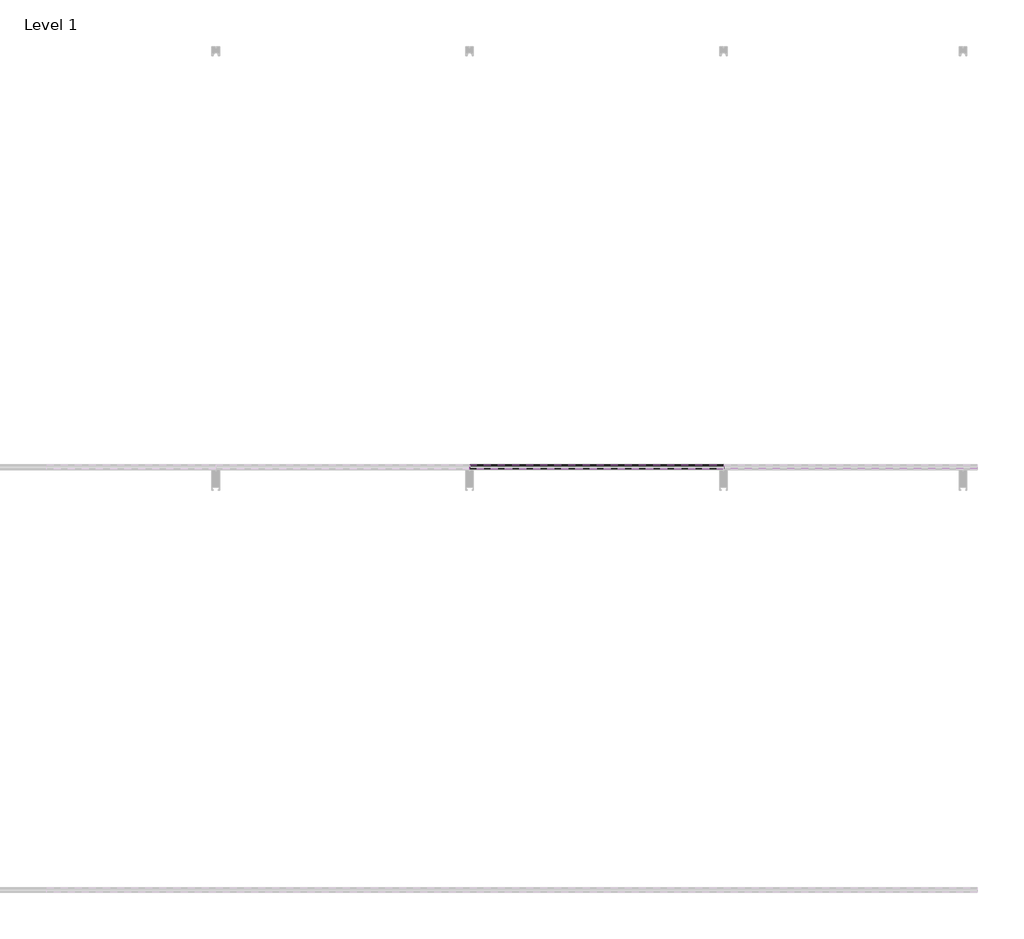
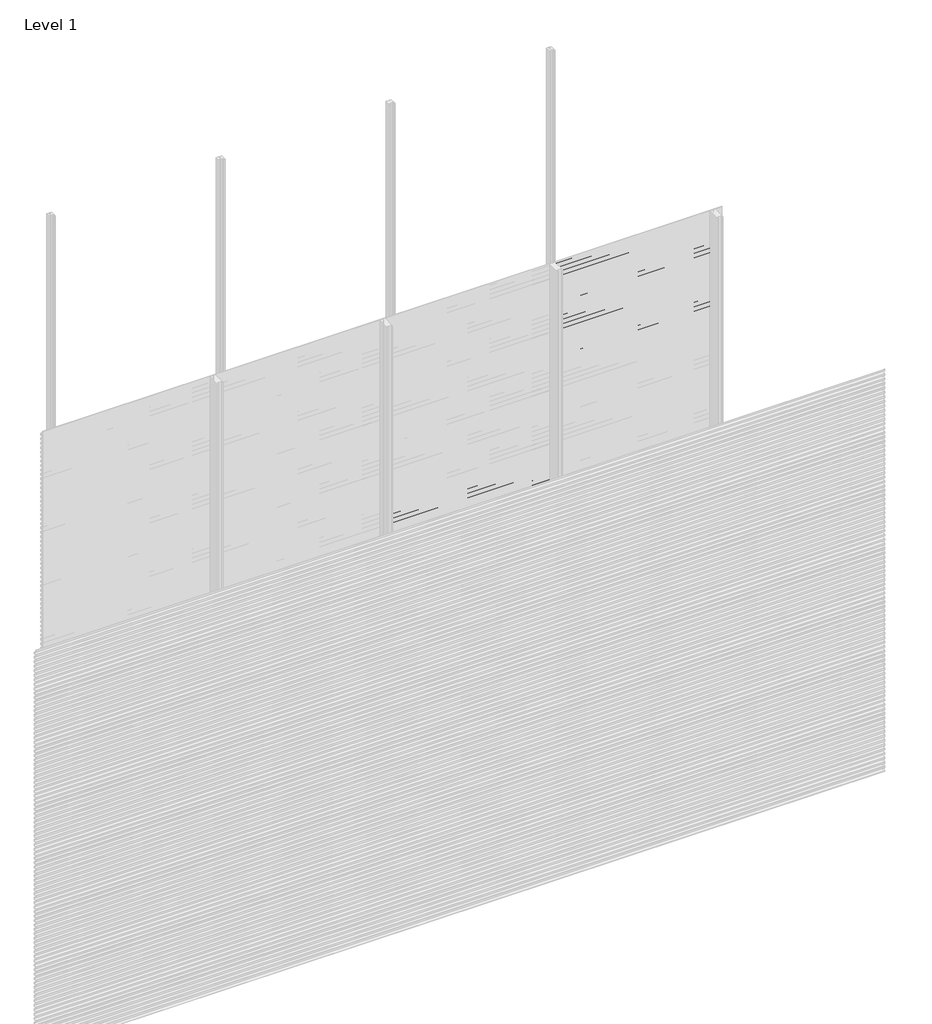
# One storey, part 54 of 77: 72 proxies.
"""IFC4 building model written with IfcOpenShell, lengths in millimetres."""

from ifc_helpers import new_model, si_unit, frame, origin, place, context, project, spatial, polyline, outline, extrude, element, save

model = new_model("IFC4")

# Units and contexts
model_context = context("Model", 3, world=origin())
ifc_project = project(units=[si_unit("LENGTHUNIT", "METRE", prefix="MILLI")], contexts=[model_context])

# Site, building, storey
site = spatial("IfcSite", under=ifc_project)
building = spatial("IfcBuilding", under=site)
storey = spatial("IfcBuildingStorey", under=building, Name="Level 1", Elevation=0.0)

# Proxies
placement = place(None, origin())
element("IfcBuildingElementProxy", 1, Name="Wall Sweeps", at=placement, inside=storey, context=model_context, shape_type="SweptSolid", body=[
    extrude(outline(polyline([(-17978.6, 1607.2359887), (-17998.0, 1618.4366691), (-17998.0, 1631.7), (-17997.0, 1631.7), (-17997.0, 1619.0191057), (-17977.6, 1607.8185105), (-17977.6, 1594.2185105), (-17978.6, 1595.7953129), (-17978.6, 1601.6032062), (-17995.9773817, 1593.5), (-17996.4, 1594.4063078), (-17978.6, 1602.7065841), (-17978.6, 1607.2359887)])), frame((3600.0, 0.0, 0.0), z_axis=(1.0, 0.0, 0.0), x_axis=(0.0, 1.0, 0.0)), (0.0, 0.0, 1.0), 1200.0),
])
element("IfcBuildingElementProxy", 2, Name="Wall Sweeps", at=placement, inside=storey, context=model_context, shape_type="SweptSolid", body=[
    extrude(outline(polyline([(-17978.6, 1573.9359887), (-17998.0, 1585.1366691), (-17998.0, 1598.4), (-17997.0, 1598.4), (-17997.0, 1585.7191057), (-17977.6, 1574.5185105), (-17977.6, 1560.9185105), (-17978.6, 1562.4953129), (-17978.6, 1568.3032062), (-17995.9773817, 1560.2), (-17996.4, 1561.1063078), (-17978.6, 1569.4065841), (-17978.6, 1573.9359887)])), frame((3600.0, 0.0, 0.0), z_axis=(1.0, 0.0, 0.0), x_axis=(0.0, 1.0, 0.0)), (0.0, 0.0, 1.0), 1200.0),
])
element("IfcBuildingElementProxy", 3, Name="Wall Sweeps", at=placement, inside=storey, context=model_context, shape_type="SweptSolid", body=[
    extrude(outline(polyline([(-17978.6, 1540.6359887), (-17998.0, 1551.8366691), (-17998.0, 1565.1), (-17997.0, 1565.1), (-17997.0, 1552.4191057), (-17977.6, 1541.2185105), (-17977.6, 1527.6185105), (-17978.6, 1529.1953129), (-17978.6, 1535.0032062), (-17995.9773817, 1526.9), (-17996.4, 1527.8063078), (-17978.6, 1536.1065841), (-17978.6, 1540.6359887)])), frame((3600.0, 0.0, 0.0), z_axis=(1.0, 0.0, 0.0), x_axis=(0.0, 1.0, 0.0)), (0.0, 0.0, 1.0), 1200.0),
])
element("IfcBuildingElementProxy", 4, Name="Wall Sweeps", at=placement, inside=storey, context=model_context, shape_type="SweptSolid", body=[
    extrude(outline(polyline([(-17978.6, 1507.3359887), (-17998.0, 1518.5366691), (-17998.0, 1531.8), (-17997.0, 1531.8), (-17997.0, 1519.1191057), (-17977.6, 1507.9185105), (-17977.6, 1494.3185105), (-17978.6, 1495.8953129), (-17978.6, 1501.7032062), (-17995.9773817, 1493.6), (-17996.4, 1494.5063078), (-17978.6, 1502.8065841), (-17978.6, 1507.3359887)])), frame((3600.0, 0.0, 0.0), z_axis=(1.0, 0.0, 0.0), x_axis=(0.0, 1.0, 0.0)), (0.0, 0.0, 1.0), 1200.0),
])
element("IfcBuildingElementProxy", 5, Name="Wall Sweeps", at=placement, inside=storey, context=model_context, shape_type="SweptSolid", body=[
    extrude(outline(polyline([(-17978.6, 1474.0359887), (-17998.0, 1485.2366691), (-17998.0, 1498.5), (-17997.0, 1498.5), (-17997.0, 1485.8191057), (-17977.6, 1474.6185105), (-17977.6, 1461.0185105), (-17978.6, 1462.5953129), (-17978.6, 1468.4032062), (-17995.9773817, 1460.3), (-17996.4, 1461.2063078), (-17978.6, 1469.5065841), (-17978.6, 1474.0359887)])), frame((3600.0, 0.0, 0.0), z_axis=(1.0, 0.0, 0.0), x_axis=(0.0, 1.0, 0.0)), (0.0, 0.0, 1.0), 1200.0),
])
element("IfcBuildingElementProxy", 6, Name="Wall Sweeps", at=placement, inside=storey, context=model_context, shape_type="SweptSolid", body=[
    extrude(outline(polyline([(-17978.6, 1440.7359887), (-17998.0, 1451.9366691), (-17998.0, 1465.2), (-17997.0, 1465.2), (-17997.0, 1452.5191057), (-17977.6, 1441.3185105), (-17977.6, 1427.7185105), (-17978.6, 1429.2953129), (-17978.6, 1435.1032062), (-17995.9773817, 1427.0), (-17996.4, 1427.9063078), (-17978.6, 1436.2065841), (-17978.6, 1440.7359887)])), frame((3600.0, 0.0, 0.0), z_axis=(1.0, 0.0, 0.0), x_axis=(0.0, 1.0, 0.0)), (0.0, 0.0, 1.0), 1200.0),
])
element("IfcBuildingElementProxy", 7, Name="Wall Sweeps", at=placement, inside=storey, context=model_context, shape_type="SweptSolid", body=[
    extrude(outline(polyline([(-17978.6, 1407.4359887), (-17998.0, 1418.6366691), (-17998.0, 1431.9), (-17997.0, 1431.9), (-17997.0, 1419.2191057), (-17977.6, 1408.0185105), (-17977.6, 1394.4185105), (-17978.6, 1395.9953129), (-17978.6, 1401.8032062), (-17995.9773817, 1393.7), (-17996.4, 1394.6063078), (-17978.6, 1402.9065841), (-17978.6, 1407.4359887)])), frame((3600.0, 0.0, 0.0), z_axis=(1.0, 0.0, 0.0), x_axis=(0.0, 1.0, 0.0)), (0.0, 0.0, 1.0), 1200.0),
])
element("IfcBuildingElementProxy", 8, Name="Wall Sweeps", at=placement, inside=storey, context=model_context, shape_type="SweptSolid", body=[
    extrude(outline(polyline([(-17978.6, 1374.1359887), (-17998.0, 1385.3366691), (-17998.0, 1398.6), (-17997.0, 1398.6), (-17997.0, 1385.9191057), (-17977.6, 1374.7185105), (-17977.6, 1361.1185105), (-17978.6, 1362.6953129), (-17978.6, 1368.5032062), (-17995.9773817, 1360.4), (-17996.4, 1361.3063078), (-17978.6, 1369.6065841), (-17978.6, 1374.1359887)])), frame((3600.0, 0.0, 0.0), z_axis=(1.0, 0.0, 0.0), x_axis=(0.0, 1.0, 0.0)), (0.0, 0.0, 1.0), 1200.0),
])
element("IfcBuildingElementProxy", 9, Name="Wall Sweeps", at=placement, inside=storey, context=model_context, shape_type="SweptSolid", body=[
    extrude(outline(polyline([(-17978.6, 1340.8359887), (-17998.0, 1352.0366691), (-17998.0, 1365.3), (-17997.0, 1365.3), (-17997.0, 1352.6191057), (-17977.6, 1341.4185105), (-17977.6, 1327.8185105), (-17978.6, 1329.3953129), (-17978.6, 1335.2032062), (-17995.9773817, 1327.1), (-17996.4, 1328.0063078), (-17978.6, 1336.3065841), (-17978.6, 1340.8359887)])), frame((3600.0, 0.0, 0.0), z_axis=(1.0, 0.0, 0.0), x_axis=(0.0, 1.0, 0.0)), (0.0, 0.0, 1.0), 1200.0),
])
element("IfcBuildingElementProxy", 10, Name="Wall Sweeps", at=placement, inside=storey, context=model_context, shape_type="SweptSolid", body=[
    extrude(outline(polyline([(-17978.6, 1307.5359887), (-17998.0, 1318.7366691), (-17998.0, 1332.0), (-17997.0, 1332.0), (-17997.0, 1319.3191057), (-17977.6, 1308.1185105), (-17977.6, 1294.5185105), (-17978.6, 1296.0953129), (-17978.6, 1301.9032062), (-17995.9773817, 1293.8), (-17996.4, 1294.7063078), (-17978.6, 1303.0065841), (-17978.6, 1307.5359887)])), frame((3600.0, 0.0, 0.0), z_axis=(1.0, 0.0, 0.0), x_axis=(0.0, 1.0, 0.0)), (0.0, 0.0, 1.0), 1200.0),
])
element("IfcBuildingElementProxy", 11, Name="Wall Sweeps", at=placement, inside=storey, context=model_context, shape_type="SweptSolid", body=[
    extrude(outline(polyline([(-17978.6, 1274.2359887), (-17998.0, 1285.4366691), (-17998.0, 1298.7), (-17997.0, 1298.7), (-17997.0, 1286.0191057), (-17977.6, 1274.8185105), (-17977.6, 1261.2185105), (-17978.6, 1262.7953129), (-17978.6, 1268.6032062), (-17995.9773817, 1260.5), (-17996.4, 1261.4063078), (-17978.6, 1269.7065841), (-17978.6, 1274.2359887)])), frame((3600.0, 0.0, 0.0), z_axis=(1.0, 0.0, 0.0), x_axis=(0.0, 1.0, 0.0)), (0.0, 0.0, 1.0), 1200.0),
])
element("IfcBuildingElementProxy", 12, Name="Wall Sweeps", at=placement, inside=storey, context=model_context, shape_type="SweptSolid", body=[
    extrude(outline(polyline([(-17978.6, 1240.9359887), (-17998.0, 1252.1366691), (-17998.0, 1265.4), (-17997.0, 1265.4), (-17997.0, 1252.7191057), (-17977.6, 1241.5185105), (-17977.6, 1227.9185105), (-17978.6, 1229.4953129), (-17978.6, 1235.3032062), (-17995.9773817, 1227.2), (-17996.4, 1228.1063078), (-17978.6, 1236.4065841), (-17978.6, 1240.9359887)])), frame((3600.0, 0.0, 0.0), z_axis=(1.0, 0.0, 0.0), x_axis=(0.0, 1.0, 0.0)), (0.0, 0.0, 1.0), 1200.0),
])
element("IfcBuildingElementProxy", 13, Name="Wall Sweeps", at=placement, inside=storey, context=model_context, shape_type="SweptSolid", body=[
    extrude(outline(polyline([(-17978.6, 1207.6359887), (-17998.0, 1218.8366691), (-17998.0, 1232.1), (-17997.0, 1232.1), (-17997.0, 1219.4191057), (-17977.6, 1208.2185105), (-17977.6, 1194.6185105), (-17978.6, 1196.1953129), (-17978.6, 1202.0032062), (-17995.9773817, 1193.9), (-17996.4, 1194.8063078), (-17978.6, 1203.1065841), (-17978.6, 1207.6359887)])), frame((3600.0, 0.0, 0.0), z_axis=(1.0, 0.0, 0.0), x_axis=(0.0, 1.0, 0.0)), (0.0, 0.0, 1.0), 1200.0),
])
element("IfcBuildingElementProxy", 14, Name="Wall Sweeps", at=placement, inside=storey, context=model_context, shape_type="SweptSolid", body=[
    extrude(outline(polyline([(-17978.6, 1174.3359887), (-17998.0, 1185.5366691), (-17998.0, 1198.8), (-17997.0, 1198.8), (-17997.0, 1186.1191057), (-17977.6, 1174.9185105), (-17977.6, 1161.3185105), (-17978.6, 1162.8953129), (-17978.6, 1168.7032062), (-17995.9773817, 1160.6), (-17996.4, 1161.5063078), (-17978.6, 1169.8065841), (-17978.6, 1174.3359887)])), frame((3600.0, 0.0, 0.0), z_axis=(1.0, 0.0, 0.0), x_axis=(0.0, 1.0, 0.0)), (0.0, 0.0, 1.0), 1200.0),
])
element("IfcBuildingElementProxy", 15, Name="Wall Sweeps", at=placement, inside=storey, context=model_context, shape_type="SweptSolid", body=[
    extrude(outline(polyline([(-17978.6, 1141.0359887), (-17998.0, 1152.2366691), (-17998.0, 1165.5), (-17997.0, 1165.5), (-17997.0, 1152.8191057), (-17977.6, 1141.6185105), (-17977.6, 1128.0185105), (-17978.6, 1129.5953129), (-17978.6, 1135.4032062), (-17995.9773817, 1127.3), (-17996.4, 1128.2063078), (-17978.6, 1136.5065841), (-17978.6, 1141.0359887)])), frame((3600.0, 0.0, 0.0), z_axis=(1.0, 0.0, 0.0), x_axis=(0.0, 1.0, 0.0)), (0.0, 0.0, 1.0), 1200.0),
])
element("IfcBuildingElementProxy", 16, Name="Wall Sweeps", at=placement, inside=storey, context=model_context, shape_type="SweptSolid", body=[
    extrude(outline(polyline([(-17978.6, 1107.7359887), (-17998.0, 1118.9366691), (-17998.0, 1132.2), (-17997.0, 1132.2), (-17997.0, 1119.5191057), (-17977.6, 1108.3185105), (-17977.6, 1094.7185105), (-17978.6, 1096.2953129), (-17978.6, 1102.1032062), (-17995.9773817, 1094.0), (-17996.4, 1094.9063078), (-17978.6, 1103.2065841), (-17978.6, 1107.7359887)])), frame((3600.0, 0.0, 0.0), z_axis=(1.0, 0.0, 0.0), x_axis=(0.0, 1.0, 0.0)), (0.0, 0.0, 1.0), 1200.0),
])
element("IfcBuildingElementProxy", 17, Name="Wall Sweeps", at=placement, inside=storey, context=model_context, shape_type="SweptSolid", body=[
    extrude(outline(polyline([(-17978.6, 1074.4359887), (-17998.0, 1085.6366691), (-17998.0, 1098.9), (-17997.0, 1098.9), (-17997.0, 1086.2191057), (-17977.6, 1075.0185105), (-17977.6, 1061.4185105), (-17978.6, 1062.9953129), (-17978.6, 1068.8032062), (-17995.9773817, 1060.7), (-17996.4, 1061.6063078), (-17978.6, 1069.9065841), (-17978.6, 1074.4359887)])), frame((3600.0, 0.0, 0.0), z_axis=(1.0, 0.0, 0.0), x_axis=(0.0, 1.0, 0.0)), (0.0, 0.0, 1.0), 1200.0),
])
element("IfcBuildingElementProxy", 18, Name="Wall Sweeps", at=placement, inside=storey, context=model_context, shape_type="SweptSolid", body=[
    extrude(outline(polyline([(-17978.6, 1041.1359887), (-17998.0, 1052.3366691), (-17998.0, 1065.6), (-17997.0, 1065.6), (-17997.0, 1052.9191057), (-17977.6, 1041.7185105), (-17977.6, 1028.1185105), (-17978.6, 1029.6953129), (-17978.6, 1035.5032062), (-17995.9773817, 1027.4), (-17996.4, 1028.3063078), (-17978.6, 1036.6065841), (-17978.6, 1041.1359887)])), frame((3600.0, 0.0, 0.0), z_axis=(1.0, 0.0, 0.0), x_axis=(0.0, 1.0, 0.0)), (0.0, 0.0, 1.0), 1200.0),
])
element("IfcBuildingElementProxy", 19, Name="Wall Sweeps", at=placement, inside=storey, context=model_context, shape_type="SweptSolid", body=[
    extrude(outline(polyline([(-17978.6, 1007.8359887), (-17998.0, 1019.0366691), (-17998.0, 1032.3), (-17997.0, 1032.3), (-17997.0, 1019.6191057), (-17977.6, 1008.4185105), (-17977.6, 994.8185105), (-17978.6, 996.3953129), (-17978.6, 1002.2032062), (-17995.9773817, 994.1), (-17996.4, 995.0063078), (-17978.6, 1003.3065841), (-17978.6, 1007.8359887)])), frame((3600.0, 0.0, 0.0), z_axis=(1.0, 0.0, 0.0), x_axis=(0.0, 1.0, 0.0)), (0.0, 0.0, 1.0), 1200.0),
])
element("IfcBuildingElementProxy", 20, Name="Wall Sweeps", at=placement, inside=storey, context=model_context, shape_type="SweptSolid", body=[
    extrude(outline(polyline([(-17978.6, 974.5359887), (-17998.0, 985.7366691), (-17998.0, 999.0), (-17997.0, 999.0), (-17997.0, 986.3191057), (-17977.6, 975.1185105), (-17977.6, 961.5185105), (-17978.6, 963.0953129), (-17978.6, 968.9032062), (-17995.9773817, 960.8), (-17996.4, 961.7063078), (-17978.6, 970.0065841), (-17978.6, 974.5359887)])), frame((3600.0, 0.0, 0.0), z_axis=(1.0, 0.0, 0.0), x_axis=(0.0, 1.0, 0.0)), (0.0, 0.0, 1.0), 1200.0),
])
element("IfcBuildingElementProxy", 21, Name="Wall Sweeps", at=placement, inside=storey, context=model_context, shape_type="SweptSolid", body=[
    extrude(outline(polyline([(-17978.6, 941.2359887), (-17998.0, 952.4366691), (-17998.0, 965.7), (-17997.0, 965.7), (-17997.0, 953.0191057), (-17977.6, 941.8185105), (-17977.6, 928.2185105), (-17978.6, 929.7953129), (-17978.6, 935.6032062), (-17995.9773817, 927.5), (-17996.4, 928.4063078), (-17978.6, 936.7065841), (-17978.6, 941.2359887)])), frame((3600.0, 0.0, 0.0), z_axis=(1.0, 0.0, 0.0), x_axis=(0.0, 1.0, 0.0)), (0.0, 0.0, 1.0), 1200.0),
])
element("IfcBuildingElementProxy", 22, Name="Wall Sweeps", at=placement, inside=storey, context=model_context, shape_type="SweptSolid", body=[
    extrude(outline(polyline([(-17978.6, 907.9359887), (-17998.0, 919.1366691), (-17998.0, 932.4), (-17997.0, 932.4), (-17997.0, 919.7191057), (-17977.6, 908.5185105), (-17977.6, 894.9185105), (-17978.6, 896.4953129), (-17978.6, 902.3032062), (-17995.9773817, 894.2), (-17996.4, 895.1063078), (-17978.6, 903.4065841), (-17978.6, 907.9359887)])), frame((3600.0, 0.0, 0.0), z_axis=(1.0, 0.0, 0.0), x_axis=(0.0, 1.0, 0.0)), (0.0, 0.0, 1.0), 1200.0),
])
element("IfcBuildingElementProxy", 23, Name="Wall Sweeps", at=placement, inside=storey, context=model_context, shape_type="SweptSolid", body=[
    extrude(outline(polyline([(-17978.6, 874.6359887), (-17998.0, 885.8366691), (-17998.0, 899.1), (-17997.0, 899.1), (-17997.0, 886.4191057), (-17977.6, 875.2185105), (-17977.6, 861.6185105), (-17978.6, 863.1953129), (-17978.6, 869.0032062), (-17995.9773817, 860.9), (-17996.4, 861.8063078), (-17978.6, 870.1065841), (-17978.6, 874.6359887)])), frame((3600.0, 0.0, 0.0), z_axis=(1.0, 0.0, 0.0), x_axis=(0.0, 1.0, 0.0)), (0.0, 0.0, 1.0), 1200.0),
])
element("IfcBuildingElementProxy", 24, Name="Wall Sweeps", at=placement, inside=storey, context=model_context, shape_type="SweptSolid", body=[
    extrude(outline(polyline([(-17978.6, 841.3359887), (-17998.0, 852.5366691), (-17998.0, 865.8), (-17997.0, 865.8), (-17997.0, 853.1191057), (-17977.6, 841.9185105), (-17977.6, 828.3185105), (-17978.6, 829.8953129), (-17978.6, 835.7032062), (-17995.9773817, 827.6), (-17996.4, 828.5063078), (-17978.6, 836.8065841), (-17978.6, 841.3359887)])), frame((3600.0, 0.0, 0.0), z_axis=(1.0, 0.0, 0.0), x_axis=(0.0, 1.0, 0.0)), (0.0, 0.0, 1.0), 1200.0),
])
element("IfcBuildingElementProxy", 25, Name="Wall Sweeps", at=placement, inside=storey, context=model_context, shape_type="SweptSolid", body=[
    extrude(outline(polyline([(-17978.6, 808.0359887), (-17998.0, 819.2366691), (-17998.0, 832.5), (-17997.0, 832.5), (-17997.0, 819.8191057), (-17977.6, 808.6185105), (-17977.6, 795.0185105), (-17978.6, 796.5953129), (-17978.6, 802.4032062), (-17995.9773817, 794.3), (-17996.4, 795.2063078), (-17978.6, 803.5065841), (-17978.6, 808.0359887)])), frame((3600.0, 0.0, 0.0), z_axis=(1.0, 0.0, 0.0), x_axis=(0.0, 1.0, 0.0)), (0.0, 0.0, 1.0), 1200.0),
])
element("IfcBuildingElementProxy", 26, Name="Wall Sweeps", at=placement, inside=storey, context=model_context, shape_type="SweptSolid", body=[
    extrude(outline(polyline([(-17978.6, 774.7359887), (-17998.0, 785.9366691), (-17998.0, 799.2), (-17997.0, 799.2), (-17997.0, 786.5191057), (-17977.6, 775.3185105), (-17977.6, 761.7185105), (-17978.6, 763.2953129), (-17978.6, 769.1032062), (-17995.9773817, 761.0), (-17996.4, 761.9063078), (-17978.6, 770.2065841), (-17978.6, 774.7359887)])), frame((3600.0, 0.0, 0.0), z_axis=(1.0, 0.0, 0.0), x_axis=(0.0, 1.0, 0.0)), (0.0, 0.0, 1.0), 1200.0),
])
element("IfcBuildingElementProxy", 27, Name="Wall Sweeps", at=placement, inside=storey, context=model_context, shape_type="SweptSolid", body=[
    extrude(outline(polyline([(-17978.6, 741.4359887), (-17998.0, 752.6366691), (-17998.0, 765.9), (-17997.0, 765.9), (-17997.0, 753.2191057), (-17977.6, 742.0185105), (-17977.6, 728.4185105), (-17978.6, 729.9953129), (-17978.6, 735.8032062), (-17995.9773817, 727.7), (-17996.4, 728.6063078), (-17978.6, 736.9065841), (-17978.6, 741.4359887)])), frame((3600.0, 0.0, 0.0), z_axis=(1.0, 0.0, 0.0), x_axis=(0.0, 1.0, 0.0)), (0.0, 0.0, 1.0), 1200.0),
])
element("IfcBuildingElementProxy", 28, Name="Wall Sweeps", at=placement, inside=storey, context=model_context, shape_type="SweptSolid", body=[
    extrude(outline(polyline([(-17978.6, 708.1359887), (-17998.0, 719.3366691), (-17998.0, 732.6), (-17997.0, 732.6), (-17997.0, 719.9191057), (-17977.6, 708.7185105), (-17977.6, 695.1185105), (-17978.6, 696.6953129), (-17978.6, 702.5032062), (-17995.9773817, 694.4), (-17996.4, 695.3063078), (-17978.6, 703.6065841), (-17978.6, 708.1359887)])), frame((3600.0, 0.0, 0.0), z_axis=(1.0, 0.0, 0.0), x_axis=(0.0, 1.0, 0.0)), (0.0, 0.0, 1.0), 1200.0),
])
element("IfcBuildingElementProxy", 29, Name="Wall Sweeps", at=placement, inside=storey, context=model_context, shape_type="SweptSolid", body=[
    extrude(outline(polyline([(-17978.6, 674.8359887), (-17998.0, 686.0366691), (-17998.0, 699.3), (-17997.0, 699.3), (-17997.0, 686.6191057), (-17977.6, 675.4185105), (-17977.6, 661.8185105), (-17978.6, 663.3953129), (-17978.6, 669.2032062), (-17995.9773817, 661.1), (-17996.4, 662.0063078), (-17978.6, 670.3065841), (-17978.6, 674.8359887)])), frame((3600.0, 0.0, 0.0), z_axis=(1.0, 0.0, 0.0), x_axis=(0.0, 1.0, 0.0)), (0.0, 0.0, 1.0), 1200.0),
])
element("IfcBuildingElementProxy", 30, Name="Wall Sweeps", at=placement, inside=storey, context=model_context, shape_type="SweptSolid", body=[
    extrude(outline(polyline([(-17978.6, 641.5359887), (-17998.0, 652.7366691), (-17998.0, 666.0), (-17997.0, 666.0), (-17997.0, 653.3191057), (-17977.6, 642.1185105), (-17977.6, 628.5185105), (-17978.6, 630.0953129), (-17978.6, 635.9032062), (-17995.9773817, 627.8), (-17996.4, 628.7063078), (-17978.6, 637.0065841), (-17978.6, 641.5359887)])), frame((3600.0, 0.0, 0.0), z_axis=(1.0, 0.0, 0.0), x_axis=(0.0, 1.0, 0.0)), (0.0, 0.0, 1.0), 1200.0),
])
element("IfcBuildingElementProxy", 31, Name="Wall Sweeps", at=placement, inside=storey, context=model_context, shape_type="SweptSolid", body=[
    extrude(outline(polyline([(-17978.6, 608.2359887), (-17998.0, 619.4366691), (-17998.0, 632.7), (-17997.0, 632.7), (-17997.0, 620.0191057), (-17977.6, 608.8185105), (-17977.6, 595.2185105), (-17978.6, 596.7953129), (-17978.6, 602.6032062), (-17995.9773817, 594.5), (-17996.4, 595.4063078), (-17978.6, 603.7065841), (-17978.6, 608.2359887)])), frame((3600.0, 0.0, 0.0), z_axis=(1.0, 0.0, 0.0), x_axis=(0.0, 1.0, 0.0)), (0.0, 0.0, 1.0), 1200.0),
])
element("IfcBuildingElementProxy", 32, Name="Wall Sweeps", at=placement, inside=storey, context=model_context, shape_type="SweptSolid", body=[
    extrude(outline(polyline([(-17978.6, 574.9359887), (-17998.0, 586.1366691), (-17998.0, 599.4), (-17997.0, 599.4), (-17997.0, 586.7191057), (-17977.6, 575.5185105), (-17977.6, 561.9185105), (-17978.6, 563.4953129), (-17978.6, 569.3032062), (-17995.9773817, 561.2), (-17996.4, 562.1063078), (-17978.6, 570.4065841), (-17978.6, 574.9359887)])), frame((3600.0, 0.0, 0.0), z_axis=(1.0, 0.0, 0.0), x_axis=(0.0, 1.0, 0.0)), (0.0, 0.0, 1.0), 1200.0),
])
element("IfcBuildingElementProxy", 33, Name="Wall Sweeps", at=placement, inside=storey, context=model_context, shape_type="SweptSolid", body=[
    extrude(outline(polyline([(-17978.6, 541.6359887), (-17998.0, 552.8366691), (-17998.0, 566.1), (-17997.0, 566.1), (-17997.0, 553.4191057), (-17977.6, 542.2185105), (-17977.6, 528.6185105), (-17978.6, 530.1953129), (-17978.6, 536.0032062), (-17995.9773817, 527.9), (-17996.4, 528.8063078), (-17978.6, 537.1065841), (-17978.6, 541.6359887)])), frame((3600.0, 0.0, 0.0), z_axis=(1.0, 0.0, 0.0), x_axis=(0.0, 1.0, 0.0)), (0.0, 0.0, 1.0), 1200.0),
])
element("IfcBuildingElementProxy", 34, Name="Wall Sweeps", at=placement, inside=storey, context=model_context, shape_type="SweptSolid", body=[
    extrude(outline(polyline([(-17978.6, 508.3359887), (-17998.0, 519.5366691), (-17998.0, 532.8), (-17997.0, 532.8), (-17997.0, 520.1191057), (-17977.6, 508.9185105), (-17977.6, 495.3185105), (-17978.6, 496.8953129), (-17978.6, 502.7032062), (-17995.9773817, 494.6), (-17996.4, 495.5063078), (-17978.6, 503.8065841), (-17978.6, 508.3359887)])), frame((3600.0, 0.0, 0.0), z_axis=(1.0, 0.0, 0.0), x_axis=(0.0, 1.0, 0.0)), (0.0, 0.0, 1.0), 1200.0),
])
element("IfcBuildingElementProxy", 35, Name="Wall Sweeps", at=placement, inside=storey, context=model_context, shape_type="SweptSolid", body=[
    extrude(outline(polyline([(-17978.6, 475.0359887), (-17998.0, 486.2366691), (-17998.0, 499.5), (-17997.0, 499.5), (-17997.0, 486.8191057), (-17977.6, 475.6185105), (-17977.6, 462.0185105), (-17978.6, 463.5953129), (-17978.6, 469.4032062), (-17995.9773817, 461.3), (-17996.4, 462.2063078), (-17978.6, 470.5065841), (-17978.6, 475.0359887)])), frame((3600.0, 0.0, 0.0), z_axis=(1.0, 0.0, 0.0), x_axis=(0.0, 1.0, 0.0)), (0.0, 0.0, 1.0), 1200.0),
])
element("IfcBuildingElementProxy", 36, Name="Wall Sweeps", at=placement, inside=storey, context=model_context, shape_type="SweptSolid", body=[
    extrude(outline(polyline([(-17978.6, 441.7359887), (-17998.0, 452.9366691), (-17998.0, 466.2), (-17997.0, 466.2), (-17997.0, 453.5191057), (-17977.6, 442.3185105), (-17977.6, 428.7185105), (-17978.6, 430.2953129), (-17978.6, 436.1032062), (-17995.9773817, 428.0), (-17996.4, 428.9063078), (-17978.6, 437.2065841), (-17978.6, 441.7359887)])), frame((3600.0, 0.0, 0.0), z_axis=(1.0, 0.0, 0.0), x_axis=(0.0, 1.0, 0.0)), (0.0, 0.0, 1.0), 1200.0),
])
element("IfcBuildingElementProxy", 37, Name="Wall Sweeps", at=placement, inside=storey, context=model_context, shape_type="SweptSolid", body=[
    extrude(outline(polyline([(-17978.6, 408.4359887), (-17998.0, 419.6366691), (-17998.0, 432.9), (-17997.0, 432.9), (-17997.0, 420.2191057), (-17977.6, 409.0185105), (-17977.6, 395.4185105), (-17978.6, 396.9953129), (-17978.6, 402.8032062), (-17995.9773817, 394.7), (-17996.4, 395.6063078), (-17978.6, 403.9065841), (-17978.6, 408.4359887)])), frame((3600.0, 0.0, 0.0), z_axis=(1.0, 0.0, 0.0), x_axis=(0.0, 1.0, 0.0)), (0.0, 0.0, 1.0), 1200.0),
])
element("IfcBuildingElementProxy", 38, Name="Wall Sweeps", at=placement, inside=storey, context=model_context, shape_type="SweptSolid", body=[
    extrude(outline(polyline([(-17978.6, 375.1359887), (-17998.0, 386.3366691), (-17998.0, 399.6), (-17997.0, 399.6), (-17997.0, 386.9191057), (-17977.6, 375.7185105), (-17977.6, 362.1185105), (-17978.6, 363.6953129), (-17978.6, 369.5032062), (-17995.9773817, 361.4), (-17996.4, 362.3063078), (-17978.6, 370.6065841), (-17978.6, 375.1359887)])), frame((3600.0, 0.0, 0.0), z_axis=(1.0, 0.0, 0.0), x_axis=(0.0, 1.0, 0.0)), (0.0, 0.0, 1.0), 1200.0),
])
element("IfcBuildingElementProxy", 39, Name="Wall Sweeps", at=placement, inside=storey, context=model_context, shape_type="SweptSolid", body=[
    extrude(outline(polyline([(-17978.6, 341.8359887), (-17998.0, 353.0366691), (-17998.0, 366.3), (-17997.0, 366.3), (-17997.0, 353.6191057), (-17977.6, 342.4185105), (-17977.6, 328.8185105), (-17978.6, 330.3953129), (-17978.6, 336.2032062), (-17995.9773817, 328.1), (-17996.4, 329.0063078), (-17978.6, 337.3065841), (-17978.6, 341.8359887)])), frame((3600.0, 0.0, 0.0), z_axis=(1.0, 0.0, 0.0), x_axis=(0.0, 1.0, 0.0)), (0.0, 0.0, 1.0), 1200.0),
])
element("IfcBuildingElementProxy", 40, Name="Wall Sweeps", at=placement, inside=storey, context=model_context, shape_type="SweptSolid", body=[
    extrude(outline(polyline([(-17978.6, 308.5359887), (-17998.0, 319.7366691), (-17998.0, 333.0), (-17997.0, 333.0), (-17997.0, 320.3191057), (-17977.6, 309.1185105), (-17977.6, 295.5185105), (-17978.6, 297.0953129), (-17978.6, 302.9032062), (-17995.9773817, 294.8), (-17996.4, 295.7063078), (-17978.6, 304.0065841), (-17978.6, 308.5359887)])), frame((3600.0, 0.0, 0.0), z_axis=(1.0, 0.0, 0.0), x_axis=(0.0, 1.0, 0.0)), (0.0, 0.0, 1.0), 1200.0),
])
element("IfcBuildingElementProxy", 41, Name="Wall Sweeps", at=placement, inside=storey, context=model_context, shape_type="SweptSolid", body=[
    extrude(outline(polyline([(-17978.6, 275.2359887), (-17998.0, 286.4366691), (-17998.0, 299.7), (-17997.0, 299.7), (-17997.0, 287.0191057), (-17977.6, 275.8185105), (-17977.6, 262.2185105), (-17978.6, 263.7953129), (-17978.6, 269.6032062), (-17995.9773817, 261.5), (-17996.4, 262.4063078), (-17978.6, 270.7065841), (-17978.6, 275.2359887)])), frame((3600.0, 0.0, 0.0), z_axis=(1.0, 0.0, 0.0), x_axis=(0.0, 1.0, 0.0)), (0.0, 0.0, 1.0), 1200.0),
])
element("IfcBuildingElementProxy", 42, Name="Wall Sweeps", at=placement, inside=storey, context=model_context, shape_type="SweptSolid", body=[
    extrude(outline(polyline([(-17978.6, 241.9359887), (-17998.0, 253.1366691), (-17998.0, 266.4), (-17997.0, 266.4), (-17997.0, 253.7191057), (-17977.6, 242.5185105), (-17977.6, 228.9185105), (-17978.6, 230.4953129), (-17978.6, 236.3032062), (-17995.9773817, 228.2), (-17996.4, 229.1063078), (-17978.6, 237.4065841), (-17978.6, 241.9359887)])), frame((3600.0, 0.0, 0.0), z_axis=(1.0, 0.0, 0.0), x_axis=(0.0, 1.0, 0.0)), (0.0, 0.0, 1.0), 1200.0),
])
element("IfcBuildingElementProxy", 43, Name="Wall Sweeps", at=placement, inside=storey, context=model_context, shape_type="SweptSolid", body=[
    extrude(outline(polyline([(-17978.6, 208.6359887), (-17998.0, 219.8366691), (-17998.0, 233.1), (-17997.0, 233.1), (-17997.0, 220.4191057), (-17977.6, 209.2185105), (-17977.6, 195.6185105), (-17978.6, 197.1953129), (-17978.6, 203.0032062), (-17995.9773817, 194.9), (-17996.4, 195.8063078), (-17978.6, 204.1065841), (-17978.6, 208.6359887)])), frame((3600.0, 0.0, 0.0), z_axis=(1.0, 0.0, 0.0), x_axis=(0.0, 1.0, 0.0)), (0.0, 0.0, 1.0), 1200.0),
])
element("IfcBuildingElementProxy", 44, Name="Wall Sweeps", at=placement, inside=storey, context=model_context, shape_type="SweptSolid", body=[
    extrude(outline(polyline([(-17978.6, 175.3359887), (-17998.0, 186.5366691), (-17998.0, 199.8), (-17997.0, 199.8), (-17997.0, 187.1191057), (-17977.6, 175.9185105), (-17977.6, 162.3185105), (-17978.6, 163.8953129), (-17978.6, 169.7032062), (-17995.9773817, 161.6), (-17996.4, 162.5063078), (-17978.6, 170.8065841), (-17978.6, 175.3359887)])), frame((3600.0, 0.0, 0.0), z_axis=(1.0, 0.0, 0.0), x_axis=(0.0, 1.0, 0.0)), (0.0, 0.0, 1.0), 1200.0),
])
element("IfcBuildingElementProxy", 45, Name="Wall Sweeps", at=placement, inside=storey, context=model_context, shape_type="SweptSolid", body=[
    extrude(outline(polyline([(-17978.6, 142.0359887), (-17998.0, 153.2366691), (-17998.0, 166.5), (-17997.0, 166.5), (-17997.0, 153.8191057), (-17977.6, 142.6185105), (-17977.6, 129.0185105), (-17978.6, 130.5953129), (-17978.6, 136.4032062), (-17995.9773817, 128.3), (-17996.4, 129.2063078), (-17978.6, 137.5065841), (-17978.6, 142.0359887)])), frame((3600.0, 0.0, 0.0), z_axis=(1.0, 0.0, 0.0), x_axis=(0.0, 1.0, 0.0)), (0.0, 0.0, 1.0), 1200.0),
])
element("IfcBuildingElementProxy", 46, Name="Wall Sweeps", at=placement, inside=storey, context=model_context, shape_type="SweptSolid", body=[
    extrude(outline(polyline([(-17978.6, 108.7359887), (-17998.0, 119.9366691), (-17998.0, 133.2), (-17997.0, 133.2), (-17997.0, 120.5191057), (-17977.6, 109.3185105), (-17977.6, 95.7185105), (-17978.6, 97.2953129), (-17978.6, 103.1032062), (-17995.9773817, 95.0), (-17996.4, 95.9063078), (-17978.6, 104.2065841), (-17978.6, 108.7359887)])), frame((3600.0, 0.0, 0.0), z_axis=(1.0, 0.0, 0.0), x_axis=(0.0, 1.0, 0.0)), (0.0, 0.0, 1.0), 1200.0),
])
element("IfcBuildingElementProxy", 47, Name="Wall Sweeps", at=placement, inside=storey, context=model_context, shape_type="SweptSolid", body=[
    extrude(outline(polyline([(-17978.6, 75.4359887), (-17998.0, 86.6366691), (-17998.0, 99.9), (-17997.0, 99.9), (-17997.0, 87.2191057), (-17977.6, 76.0185105), (-17977.6, 62.4185105), (-17978.6, 63.9953129), (-17978.6, 69.8032062), (-17995.9773817, 61.7), (-17996.4, 62.6063078), (-17978.6, 70.9065841), (-17978.6, 75.4359887)])), frame((3600.0, 0.0, 0.0), z_axis=(1.0, 0.0, 0.0), x_axis=(0.0, 1.0, 0.0)), (0.0, 0.0, 1.0), 1200.0),
])
element("IfcBuildingElementProxy", 48, Name="Wall Sweeps", at=placement, inside=storey, context=model_context, shape_type="SweptSolid", body=[
    extrude(outline(polyline([(-17978.6, 42.1359887), (-17998.0, 53.3366691), (-17998.0, 66.6), (-17997.0, 66.6), (-17997.0, 53.9191057), (-17977.6, 42.7185105), (-17977.6, 29.1185105), (-17978.6, 30.6953129), (-17978.6, 36.5032062), (-17995.9773817, 28.4), (-17996.4, 29.3063078), (-17978.6, 37.6065841), (-17978.6, 42.1359887)])), frame((3600.0, 0.0, 0.0), z_axis=(1.0, 0.0, 0.0), x_axis=(0.0, 1.0, 0.0)), (0.0, 0.0, 1.0), 1200.0),
])
element("IfcBuildingElementProxy", 49, Name="Wall Sweeps", at=placement, inside=storey, context=model_context, shape_type="SweptSolid", body=[
    extrude(outline(polyline([(-17978.6, 8.8359887), (-17998.0, 20.0366691), (-17998.0, 33.3), (-17997.0, 33.3), (-17997.0, 20.6191057), (-17977.6, 9.4185105), (-17977.6, -4.1814895), (-17978.6, -2.6046871), (-17978.6, 3.2032062), (-17995.9773817, -4.9), (-17996.4, -3.9936922), (-17978.6, 4.3065841), (-17978.6, 8.8359887)])), frame((3600.0, 0.0, 0.0), z_axis=(1.0, 0.0, 0.0), x_axis=(0.0, 1.0, 0.0)), (0.0, 0.0, 1.0), 1200.0),
])
element("IfcBuildingElementProxy", 50, Name="Wall Sweeps", at=placement, inside=storey, context=model_context, shape_type="SweptSolid", body=[
    extrude(outline(polyline([(-17978.6, 2972.5359887), (-17998.0, 2983.7366691), (-17998.0, 2997.0), (-17997.0, 2997.0), (-17997.0, 2984.3191057), (-17977.6, 2973.1185105), (-17977.6, 2959.5185105), (-17978.6, 2961.0953129), (-17978.6, 2966.9032062), (-17995.9773817, 2958.8), (-17996.4, 2959.7063078), (-17978.6, 2968.0065841), (-17978.6, 2972.5359887)])), frame((4800.0, 0.0, 0.0), z_axis=(1.0, 0.0, 0.0), x_axis=(0.0, 1.0, 0.0)), (0.0, 0.0, 1.0), 1200.0),
])
element("IfcBuildingElementProxy", 51, Name="Wall Sweeps", at=placement, inside=storey, context=model_context, shape_type="SweptSolid", body=[
    extrude(outline(polyline([(-17978.6, 2939.2359887), (-17998.0, 2950.4366691), (-17998.0, 2963.7), (-17997.0, 2963.7), (-17997.0, 2951.0191057), (-17977.6, 2939.8185105), (-17977.6, 2926.2185105), (-17978.6, 2927.7953129), (-17978.6, 2933.6032062), (-17995.9773817, 2925.5), (-17996.4, 2926.4063078), (-17978.6, 2934.7065841), (-17978.6, 2939.2359887)])), frame((4800.0, 0.0, 0.0), z_axis=(1.0, 0.0, 0.0), x_axis=(0.0, 1.0, 0.0)), (0.0, 0.0, 1.0), 1200.0),
])
element("IfcBuildingElementProxy", 52, Name="Wall Sweeps", at=placement, inside=storey, context=model_context, shape_type="SweptSolid", body=[
    extrude(outline(polyline([(-17978.6, 2905.9359887), (-17998.0, 2917.1366691), (-17998.0, 2930.4), (-17997.0, 2930.4), (-17997.0, 2917.7191057), (-17977.6, 2906.5185105), (-17977.6, 2892.9185105), (-17978.6, 2894.4953129), (-17978.6, 2900.3032062), (-17995.9773817, 2892.2), (-17996.4, 2893.1063078), (-17978.6, 2901.4065841), (-17978.6, 2905.9359887)])), frame((4800.0, 0.0, 0.0), z_axis=(1.0, 0.0, 0.0), x_axis=(0.0, 1.0, 0.0)), (0.0, 0.0, 1.0), 1200.0),
])
element("IfcBuildingElementProxy", 53, Name="Wall Sweeps", at=placement, inside=storey, context=model_context, shape_type="SweptSolid", body=[
    extrude(outline(polyline([(-17978.6, 2872.6359887), (-17998.0, 2883.8366691), (-17998.0, 2897.1), (-17997.0, 2897.1), (-17997.0, 2884.4191057), (-17977.6, 2873.2185105), (-17977.6, 2859.6185105), (-17978.6, 2861.1953129), (-17978.6, 2867.0032062), (-17995.9773817, 2858.9), (-17996.4, 2859.8063078), (-17978.6, 2868.1065841), (-17978.6, 2872.6359887)])), frame((4800.0, 0.0, 0.0), z_axis=(1.0, 0.0, 0.0), x_axis=(0.0, 1.0, 0.0)), (0.0, 0.0, 1.0), 1200.0),
])
element("IfcBuildingElementProxy", 54, Name="Wall Sweeps", at=placement, inside=storey, context=model_context, shape_type="SweptSolid", body=[
    extrude(outline(polyline([(-17978.6, 2839.3359887), (-17998.0, 2850.5366691), (-17998.0, 2863.8), (-17997.0, 2863.8), (-17997.0, 2851.1191057), (-17977.6, 2839.9185105), (-17977.6, 2826.3185105), (-17978.6, 2827.8953129), (-17978.6, 2833.7032062), (-17995.9773817, 2825.6), (-17996.4, 2826.5063078), (-17978.6, 2834.8065841), (-17978.6, 2839.3359887)])), frame((4800.0, 0.0, 0.0), z_axis=(1.0, 0.0, 0.0), x_axis=(0.0, 1.0, 0.0)), (0.0, 0.0, 1.0), 1200.0),
])
element("IfcBuildingElementProxy", 55, Name="Wall Sweeps", at=placement, inside=storey, context=model_context, shape_type="SweptSolid", body=[
    extrude(outline(polyline([(-17978.6, 2806.0359887), (-17998.0, 2817.2366691), (-17998.0, 2830.5), (-17997.0, 2830.5), (-17997.0, 2817.8191057), (-17977.6, 2806.6185105), (-17977.6, 2793.0185105), (-17978.6, 2794.5953129), (-17978.6, 2800.4032062), (-17995.9773817, 2792.3), (-17996.4, 2793.2063078), (-17978.6, 2801.5065841), (-17978.6, 2806.0359887)])), frame((4800.0, 0.0, 0.0), z_axis=(1.0, 0.0, 0.0), x_axis=(0.0, 1.0, 0.0)), (0.0, 0.0, 1.0), 1200.0),
])
element("IfcBuildingElementProxy", 56, Name="Wall Sweeps", at=placement, inside=storey, context=model_context, shape_type="SweptSolid", body=[
    extrude(outline(polyline([(-17978.6, 2772.7359887), (-17998.0, 2783.9366691), (-17998.0, 2797.2), (-17997.0, 2797.2), (-17997.0, 2784.5191057), (-17977.6, 2773.3185105), (-17977.6, 2759.7185105), (-17978.6, 2761.2953129), (-17978.6, 2767.1032062), (-17995.9773817, 2759.0), (-17996.4, 2759.9063078), (-17978.6, 2768.2065841), (-17978.6, 2772.7359887)])), frame((4800.0, 0.0, 0.0), z_axis=(1.0, 0.0, 0.0), x_axis=(0.0, 1.0, 0.0)), (0.0, 0.0, 1.0), 1200.0),
])
element("IfcBuildingElementProxy", 57, Name="Wall Sweeps", at=placement, inside=storey, context=model_context, shape_type="SweptSolid", body=[
    extrude(outline(polyline([(-17978.6, 2739.4359887), (-17998.0, 2750.6366691), (-17998.0, 2763.9), (-17997.0, 2763.9), (-17997.0, 2751.2191057), (-17977.6, 2740.0185105), (-17977.6, 2726.4185105), (-17978.6, 2727.9953129), (-17978.6, 2733.8032062), (-17995.9773817, 2725.7), (-17996.4, 2726.6063078), (-17978.6, 2734.9065841), (-17978.6, 2739.4359887)])), frame((4800.0, 0.0, 0.0), z_axis=(1.0, 0.0, 0.0), x_axis=(0.0, 1.0, 0.0)), (0.0, 0.0, 1.0), 1200.0),
])
element("IfcBuildingElementProxy", 58, Name="Wall Sweeps", at=placement, inside=storey, context=model_context, shape_type="SweptSolid", body=[
    extrude(outline(polyline([(-17978.6, 2706.1359887), (-17998.0, 2717.3366691), (-17998.0, 2730.6), (-17997.0, 2730.6), (-17997.0, 2717.9191057), (-17977.6, 2706.7185105), (-17977.6, 2693.1185105), (-17978.6, 2694.6953129), (-17978.6, 2700.5032062), (-17995.9773817, 2692.4), (-17996.4, 2693.3063078), (-17978.6, 2701.6065841), (-17978.6, 2706.1359887)])), frame((4800.0, 0.0, 0.0), z_axis=(1.0, 0.0, 0.0), x_axis=(0.0, 1.0, 0.0)), (0.0, 0.0, 1.0), 1200.0),
])
element("IfcBuildingElementProxy", 59, Name="Wall Sweeps", at=placement, inside=storey, context=model_context, shape_type="SweptSolid", body=[
    extrude(outline(polyline([(-17978.6, 2672.8359887), (-17998.0, 2684.0366691), (-17998.0, 2697.3), (-17997.0, 2697.3), (-17997.0, 2684.6191057), (-17977.6, 2673.4185105), (-17977.6, 2659.8185105), (-17978.6, 2661.3953129), (-17978.6, 2667.2032062), (-17995.9773817, 2659.1), (-17996.4, 2660.0063078), (-17978.6, 2668.3065841), (-17978.6, 2672.8359887)])), frame((4800.0, 0.0, 0.0), z_axis=(1.0, 0.0, 0.0), x_axis=(0.0, 1.0, 0.0)), (0.0, 0.0, 1.0), 1200.0),
])
element("IfcBuildingElementProxy", 60, Name="Wall Sweeps", at=placement, inside=storey, context=model_context, shape_type="SweptSolid", body=[
    extrude(outline(polyline([(-17978.6, 2639.5359887), (-17998.0, 2650.7366691), (-17998.0, 2664.0), (-17997.0, 2664.0), (-17997.0, 2651.3191057), (-17977.6, 2640.1185105), (-17977.6, 2626.5185105), (-17978.6, 2628.0953129), (-17978.6, 2633.9032062), (-17995.9773817, 2625.8), (-17996.4, 2626.7063078), (-17978.6, 2635.0065841), (-17978.6, 2639.5359887)])), frame((4800.0, 0.0, 0.0), z_axis=(1.0, 0.0, 0.0), x_axis=(0.0, 1.0, 0.0)), (0.0, 0.0, 1.0), 1200.0),
])
element("IfcBuildingElementProxy", 61, Name="Wall Sweeps", at=placement, inside=storey, context=model_context, shape_type="SweptSolid", body=[
    extrude(outline(polyline([(-17978.6, 2606.2359887), (-17998.0, 2617.4366691), (-17998.0, 2630.7), (-17997.0, 2630.7), (-17997.0, 2618.0191057), (-17977.6, 2606.8185105), (-17977.6, 2593.2185105), (-17978.6, 2594.7953129), (-17978.6, 2600.6032062), (-17995.9773817, 2592.5), (-17996.4, 2593.4063078), (-17978.6, 2601.7065841), (-17978.6, 2606.2359887)])), frame((4800.0, 0.0, 0.0), z_axis=(1.0, 0.0, 0.0), x_axis=(0.0, 1.0, 0.0)), (0.0, 0.0, 1.0), 1200.0),
])
element("IfcBuildingElementProxy", 62, Name="Wall Sweeps", at=placement, inside=storey, context=model_context, shape_type="SweptSolid", body=[
    extrude(outline(polyline([(-17978.6, 2572.9359887), (-17998.0, 2584.1366691), (-17998.0, 2597.4), (-17997.0, 2597.4), (-17997.0, 2584.7191057), (-17977.6, 2573.5185105), (-17977.6, 2559.9185105), (-17978.6, 2561.4953129), (-17978.6, 2567.3032062), (-17995.9773817, 2559.2), (-17996.4, 2560.1063078), (-17978.6, 2568.4065841), (-17978.6, 2572.9359887)])), frame((4800.0, 0.0, 0.0), z_axis=(1.0, 0.0, 0.0), x_axis=(0.0, 1.0, 0.0)), (0.0, 0.0, 1.0), 1200.0),
])
element("IfcBuildingElementProxy", 63, Name="Wall Sweeps", at=placement, inside=storey, context=model_context, shape_type="SweptSolid", body=[
    extrude(outline(polyline([(-17978.6, 2539.6359887), (-17998.0, 2550.8366691), (-17998.0, 2564.1), (-17997.0, 2564.1), (-17997.0, 2551.4191057), (-17977.6, 2540.2185105), (-17977.6, 2526.6185105), (-17978.6, 2528.1953129), (-17978.6, 2534.0032062), (-17995.9773817, 2525.9), (-17996.4, 2526.8063078), (-17978.6, 2535.1065841), (-17978.6, 2539.6359887)])), frame((4800.0, 0.0, 0.0), z_axis=(1.0, 0.0, 0.0), x_axis=(0.0, 1.0, 0.0)), (0.0, 0.0, 1.0), 1200.0),
])
element("IfcBuildingElementProxy", 64, Name="Wall Sweeps", at=placement, inside=storey, context=model_context, shape_type="SweptSolid", body=[
    extrude(outline(polyline([(-17978.6, 2506.3359887), (-17998.0, 2517.5366691), (-17998.0, 2530.8), (-17997.0, 2530.8), (-17997.0, 2518.1191057), (-17977.6, 2506.9185105), (-17977.6, 2493.3185105), (-17978.6, 2494.8953129), (-17978.6, 2500.7032062), (-17995.9773817, 2492.6), (-17996.4, 2493.5063078), (-17978.6, 2501.8065841), (-17978.6, 2506.3359887)])), frame((4800.0, 0.0, 0.0), z_axis=(1.0, 0.0, 0.0), x_axis=(0.0, 1.0, 0.0)), (0.0, 0.0, 1.0), 1200.0),
])
element("IfcBuildingElementProxy", 65, Name="Wall Sweeps", at=placement, inside=storey, context=model_context, shape_type="SweptSolid", body=[
    extrude(outline(polyline([(-17978.6, 2473.0359887), (-17998.0, 2484.2366691), (-17998.0, 2497.5), (-17997.0, 2497.5), (-17997.0, 2484.8191057), (-17977.6, 2473.6185105), (-17977.6, 2460.0185105), (-17978.6, 2461.5953129), (-17978.6, 2467.4032062), (-17995.9773817, 2459.3), (-17996.4, 2460.2063078), (-17978.6, 2468.5065841), (-17978.6, 2473.0359887)])), frame((4800.0, 0.0, 0.0), z_axis=(1.0, 0.0, 0.0), x_axis=(0.0, 1.0, 0.0)), (0.0, 0.0, 1.0), 1200.0),
])
element("IfcBuildingElementProxy", 66, Name="Wall Sweeps", at=placement, inside=storey, context=model_context, shape_type="SweptSolid", body=[
    extrude(outline(polyline([(-17978.6, 2439.7359887), (-17998.0, 2450.9366691), (-17998.0, 2464.2), (-17997.0, 2464.2), (-17997.0, 2451.5191057), (-17977.6, 2440.3185105), (-17977.6, 2426.7185105), (-17978.6, 2428.2953129), (-17978.6, 2434.1032062), (-17995.9773817, 2426.0), (-17996.4, 2426.9063078), (-17978.6, 2435.2065841), (-17978.6, 2439.7359887)])), frame((4800.0, 0.0, 0.0), z_axis=(1.0, 0.0, 0.0), x_axis=(0.0, 1.0, 0.0)), (0.0, 0.0, 1.0), 1200.0),
])
element("IfcBuildingElementProxy", 67, Name="Wall Sweeps", at=placement, inside=storey, context=model_context, shape_type="SweptSolid", body=[
    extrude(outline(polyline([(-17978.6, 2406.4359887), (-17998.0, 2417.6366691), (-17998.0, 2430.9), (-17997.0, 2430.9), (-17997.0, 2418.2191057), (-17977.6, 2407.0185105), (-17977.6, 2393.4185105), (-17978.6, 2394.9953129), (-17978.6, 2400.8032062), (-17995.9773817, 2392.7), (-17996.4, 2393.6063078), (-17978.6, 2401.9065841), (-17978.6, 2406.4359887)])), frame((4800.0, 0.0, 0.0), z_axis=(1.0, 0.0, 0.0), x_axis=(0.0, 1.0, 0.0)), (0.0, 0.0, 1.0), 1200.0),
])
element("IfcBuildingElementProxy", 68, Name="Wall Sweeps", at=placement, inside=storey, context=model_context, shape_type="SweptSolid", body=[
    extrude(outline(polyline([(-17978.6, 2373.1359887), (-17998.0, 2384.3366691), (-17998.0, 2397.6), (-17997.0, 2397.6), (-17997.0, 2384.9191057), (-17977.6, 2373.7185105), (-17977.6, 2360.1185105), (-17978.6, 2361.6953129), (-17978.6, 2367.5032062), (-17995.9773817, 2359.4), (-17996.4, 2360.3063078), (-17978.6, 2368.6065841), (-17978.6, 2373.1359887)])), frame((4800.0, 0.0, 0.0), z_axis=(1.0, 0.0, 0.0), x_axis=(0.0, 1.0, 0.0)), (0.0, 0.0, 1.0), 1200.0),
])
element("IfcBuildingElementProxy", 69, Name="Wall Sweeps", at=placement, inside=storey, context=model_context, shape_type="SweptSolid", body=[
    extrude(outline(polyline([(-17978.6, 2339.8359887), (-17998.0, 2351.0366691), (-17998.0, 2364.3), (-17997.0, 2364.3), (-17997.0, 2351.6191057), (-17977.6, 2340.4185105), (-17977.6, 2326.8185105), (-17978.6, 2328.3953129), (-17978.6, 2334.2032062), (-17995.9773817, 2326.1), (-17996.4, 2327.0063078), (-17978.6, 2335.3065841), (-17978.6, 2339.8359887)])), frame((4800.0, 0.0, 0.0), z_axis=(1.0, 0.0, 0.0), x_axis=(0.0, 1.0, 0.0)), (0.0, 0.0, 1.0), 1200.0),
])
element("IfcBuildingElementProxy", 70, Name="Wall Sweeps", at=placement, inside=storey, context=model_context, shape_type="SweptSolid", body=[
    extrude(outline(polyline([(-17978.6, 2306.5359887), (-17998.0, 2317.7366691), (-17998.0, 2331.0), (-17997.0, 2331.0), (-17997.0, 2318.3191057), (-17977.6, 2307.1185105), (-17977.6, 2293.5185105), (-17978.6, 2295.0953129), (-17978.6, 2300.9032062), (-17995.9773817, 2292.8), (-17996.4, 2293.7063078), (-17978.6, 2302.0065841), (-17978.6, 2306.5359887)])), frame((4800.0, 0.0, 0.0), z_axis=(1.0, 0.0, 0.0), x_axis=(0.0, 1.0, 0.0)), (0.0, 0.0, 1.0), 1200.0),
])
element("IfcBuildingElementProxy", 71, Name="Wall Sweeps", at=placement, inside=storey, context=model_context, shape_type="SweptSolid", body=[
    extrude(outline(polyline([(-17978.6, 2273.2359887), (-17998.0, 2284.4366691), (-17998.0, 2297.7), (-17997.0, 2297.7), (-17997.0, 2285.0191057), (-17977.6, 2273.8185105), (-17977.6, 2260.2185105), (-17978.6, 2261.7953129), (-17978.6, 2267.6032062), (-17995.9773817, 2259.5), (-17996.4, 2260.4063078), (-17978.6, 2268.7065841), (-17978.6, 2273.2359887)])), frame((4800.0, 0.0, 0.0), z_axis=(1.0, 0.0, 0.0), x_axis=(0.0, 1.0, 0.0)), (0.0, 0.0, 1.0), 1200.0),
])
element("IfcBuildingElementProxy", 72, Name="Wall Sweeps", at=placement, inside=storey, context=model_context, shape_type="SweptSolid", body=[
    extrude(outline(polyline([(-17978.6, 2239.9359887), (-17998.0, 2251.1366691), (-17998.0, 2264.4), (-17997.0, 2264.4), (-17997.0, 2251.7191057), (-17977.6, 2240.5185105), (-17977.6, 2226.9185105), (-17978.6, 2228.4953129), (-17978.6, 2234.3032062), (-17995.9773817, 2226.2), (-17996.4, 2227.1063078), (-17978.6, 2235.4065841), (-17978.6, 2239.9359887)])), frame((4800.0, 0.0, 0.0), z_axis=(1.0, 0.0, 0.0), x_axis=(0.0, 1.0, 0.0)), (0.0, 0.0, 1.0), 1200.0),
])

save(model, "model.ifc")
